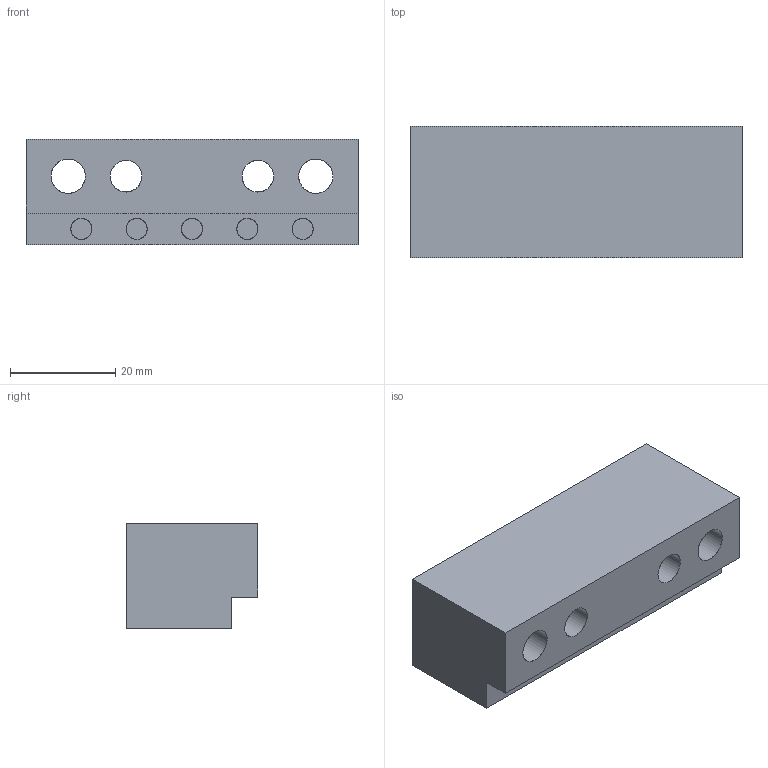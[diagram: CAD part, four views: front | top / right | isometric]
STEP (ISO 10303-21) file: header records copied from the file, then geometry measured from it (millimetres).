
FILE_DESCRIPTION(('CATIA V5 STEP Exchange'),'2;1');
FILE_NAME('C:\Users\Utente\Desktop\3D files G406\G40625063.stp','2020-04-22T11:26:25+00:00',('none'),('none'),'CATIA Version 5 Release 20 GA (IN-10)','CATIA V5 STEP AP203','none');
FILE_SCHEMA(('CONFIG_CONTROL_DESIGN'));
Length unit declared in the file: millimetre
Products named in the file (1): G40625063
Bounding box: 63 x 25 x 20 mm (x, y, z)
Surface area: 10449.5 mm2 (no closed solid volume)
Topology: 0 solids, 216 shells, 216 faces, 910 edges, 816 vertices
Faces by surface type: revolution 104, cylinder 80, plane 32
Entity records: 10360 total; most frequent: CARTESIAN_POINT 3551, DIRECTION 1078, ORIENTED_EDGE 816, EDGE_CURVE 816, VERTEX_POINT 816, AXIS2_PLACEMENT_3D 459, VECTOR 404, LINE 404
